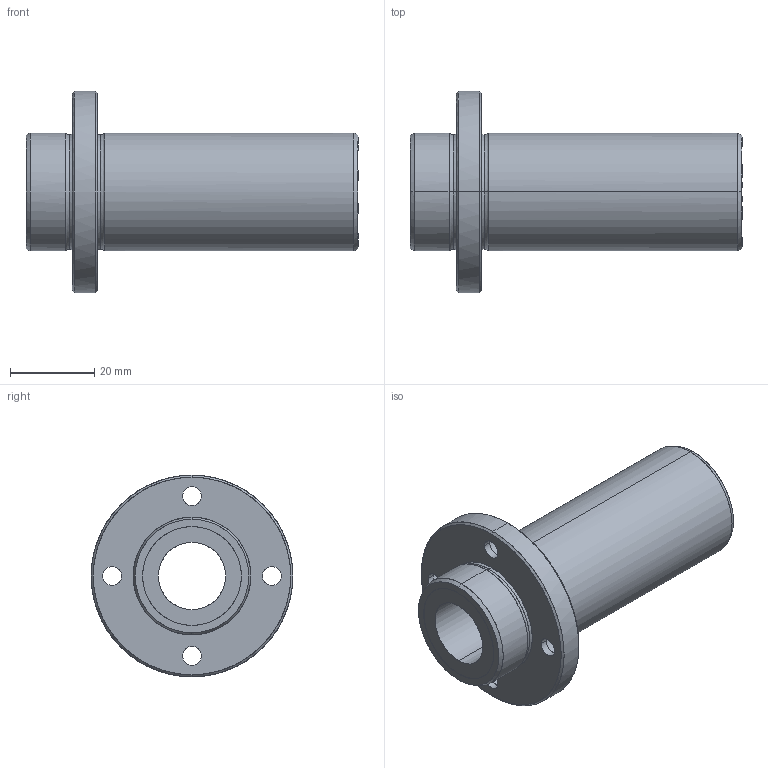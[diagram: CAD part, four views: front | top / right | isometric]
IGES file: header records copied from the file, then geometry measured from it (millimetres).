
Global section: file name: No Iges File Name specified; native system: AutoDesk Inventor R10; preprocessor: AutoDesk Inventor Iges Exporter R10; author: No Author specified; organization: No Organization specified; date: 20101216.153032; units: millimetre
Bounding box: 79 x 48 x 48 mm (x, y, z)
Surface area: 14818.7 mm2 (no closed solid volume)
Topology: 0 solids, 0 shells, 54 faces, 376 edges, 376 vertices
Faces by surface type: bspline 54
